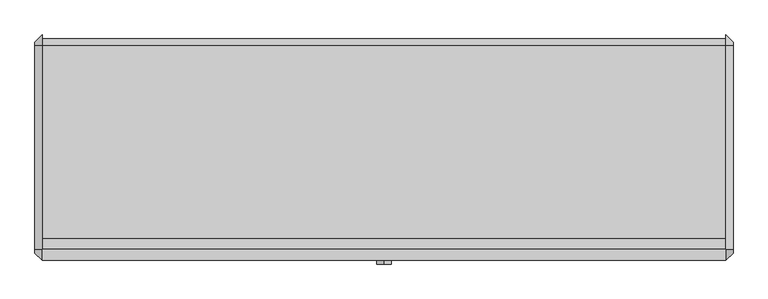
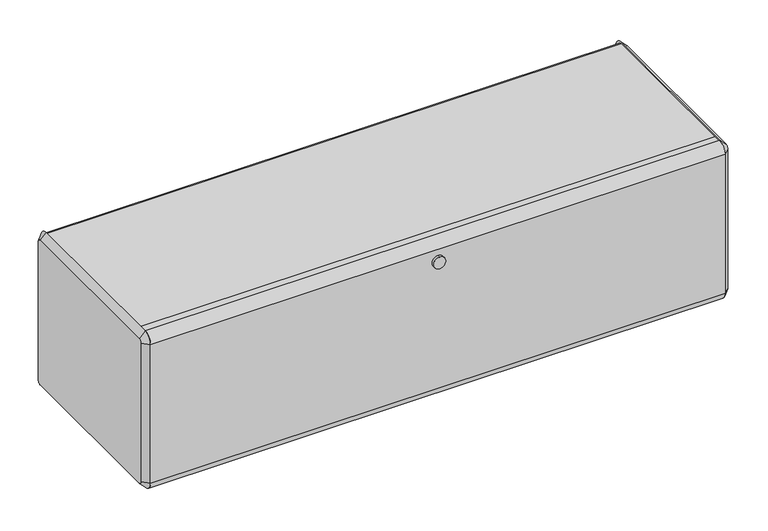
"""IFC4 building model written with IfcOpenShell, lengths in millimetres: furniture geometry."""

import ifcopenshell
import ifcopenshell.guid

model = None  # the IFC model being written
_history = None  # IfcOwnerHistory: only IFC2X3 demands one
_inside = {}  # id of a spatial element -> (the spatial element, [elements in it])
_under = {}  # id of a project, library or spatial element -> (it, [spatial elements below it])
_declared = {}  # id of a project -> (the project, [libraries it declares])
_typed = {}  # id of a type object -> (the type object, [elements of that type])
_made_of = {}  # id of a material, layer set ... -> (it, [elements and type objects made of it])


def new_model(schema):
    """Start an empty IFC model of exactly this schema.

    Asked for "IFC4X3", IfcOpenShell would pick the latest addendum, in which some entities
    have other attributes; the version numbers below select the first issue.
    IFC2X3 requires an IfcOwnerHistory on every rooted entity: one is made here for all.
    """
    global model, _history
    if schema == "IFC4X3":
        model = ifcopenshell.file(schema_version=(4, 3, 0, 0))
    else:
        model = ifcopenshell.file(schema=schema)
    _inside.clear()
    _under.clear()
    _declared.clear()
    _typed.clear()
    _made_of.clear()
    _history = None
    if model.schema == "IFC2X3":
        org = make("IfcOrganization", Name="unknown")
        user = make(
            "IfcPersonAndOrganization",
            ThePerson=make("IfcPerson", FamilyName="unknown"),
            TheOrganization=org,
        )
        app = make(
            "IfcApplication",
            ApplicationDeveloper=org,
            Version="unknown",
            ApplicationFullName="unknown",
            ApplicationIdentifier="unknown",
        )
        _history = make(
            "IfcOwnerHistory",
            OwningUser=user,
            OwningApplication=app,
            ChangeAction="ADDED",
            CreationDate=0,
        )
    return model


def make(cls, **values):
    """One entity of the class cls with the attributes given. An attribute that is None is left unset."""
    return model.create_entity(
        cls, **{name: value for name, value in values.items() if value is not None}
    )


def rooted(cls, **values):
    """An entity with a GlobalId (a new one), such as an element, a storey or a relation."""
    return make(cls, GlobalId=ifcopenshell.guid.new(), OwnerHistory=_history, **values)


def si_unit(unit_type, name, prefix=None):
    """IfcSIUnit, for example si_unit("LENGTHUNIT", "METRE", prefix="MILLI")."""
    return make("IfcSIUnit", UnitType=unit_type, Prefix=prefix, Name=name)


def assignment(units):
    """IfcUnitAssignment: the units of a project."""
    return None if units is None else make("IfcUnitAssignment", Units=units)


def point(xyz):
    """IfcCartesianPoint."""
    return None if xyz is None else make("IfcCartesianPoint", Coordinates=xyz)


def direction(xyz):
    """IfcDirection."""
    return None if xyz is None else make("IfcDirection", DirectionRatios=xyz)


def frame(location, z_axis=None, x_axis=None):
    """IfcAxis2Placement3D, a coordinate frame: its origin and axes. An axis left out is left unset."""
    return make(
        "IfcAxis2Placement3D",
        Location=point(location),
        Axis=direction(z_axis),
        RefDirection=direction(x_axis),
    )


def frame_2d(location, x_axis=None):
    """IfcAxis2Placement2D, a coordinate frame in the plane: its origin and x axis."""
    return make(
        "IfcAxis2Placement2D", Location=point(location), RefDirection=direction(x_axis)
    )


def origin():
    """The frame at (0, 0, 0) with its axes left unset."""
    return frame((0.0, 0.0, 0.0))


def place(relative_to, where):
    """IfcLocalPlacement: puts the frame where relative to a parent placement (None: the world)."""
    return make(
        "IfcLocalPlacement", PlacementRelTo=relative_to, RelativePlacement=where
    )


def context(
    kind, dimensions, precision=None, world=None, true_north=None, identifier=None
):
    """IfcGeometricRepresentationContext, for example the 3D "Model" context."""
    return make(
        "IfcGeometricRepresentationContext",
        ContextIdentifier=identifier,
        ContextType=kind,
        CoordinateSpaceDimension=dimensions,
        Precision=precision,
        WorldCoordinateSystem=world,
        TrueNorth=true_north,
    )


def project(units=None, contexts=None):
    """IfcProject with its units and contexts."""
    return rooted(
        "IfcProject",
        Name="project",
        RepresentationContexts=contexts,
        UnitsInContext=assignment(units),
    )


def spatial(cls, under=None, at=None, **own):
    """A site, building, storey or space (cls), placed at a placement, below another one or the project."""
    s = rooted(cls, ObjectPlacement=at, **own)
    if under is not None:
        _under.setdefault(under.id(), (under, []))[1].append(s)
    return s


def polyline(points):
    """IfcPolyline through the points."""
    return make("IfcPolyline", Points=[point(p) for p in points])


def circle_curve(where, radius):
    """IfcCircle in the frame where."""
    return make("IfcCircle", Position=where, Radius=radius)


def trimmed(basis, trim1, trim2, sense, master):
    """IfcTrimmedCurve: the piece of a basis curve between two trims."""
    return make(
        "IfcTrimmedCurve",
        BasisCurve=basis,
        Trim1=trim1,
        Trim2=trim2,
        SenseAgreement=sense,
        MasterRepresentation=master,
    )


def segment(curve, same_sense, transition):
    """IfcCompositeCurveSegment."""
    return make(
        "IfcCompositeCurveSegment",
        Transition=transition,
        SameSense=same_sense,
        ParentCurve=curve,
    )


def composite_curve(segments, self_intersect=None):
    """IfcCompositeCurve: segments joined end to end."""
    return make("IfcCompositeCurve", Segments=segments, SelfIntersect=self_intersect)


def outline(outer, holes=None, kind="AREA"):
    """IfcArbitraryClosedProfileDef: a profile drawn as a closed curve; with holes, ...WithVoids."""
    if holes is None:
        return make("IfcArbitraryClosedProfileDef", ProfileType=kind, OuterCurve=outer)
    return make(
        "IfcArbitraryProfileDefWithVoids",
        ProfileType=kind,
        OuterCurve=outer,
        InnerCurves=holes,
    )


def extrude(swept, where, along, depth):
    """IfcExtrudedAreaSolid: the profile swept, set in the frame where, extruded along a direction by depth."""
    return make(
        "IfcExtrudedAreaSolid",
        SweptArea=swept,
        Position=where,
        ExtrudedDirection=direction(along),
        Depth=depth,
    )


def shape(context_of_items, identifier, shape_type, items):
    """IfcShapeRepresentation: the items that make up one representation, for example the "Body"."""
    return make(
        "IfcShapeRepresentation",
        ContextOfItems=context_of_items,
        RepresentationIdentifier=identifier,
        RepresentationType=shape_type,
        Items=items,
    )


def source(mapping_origin, context_of_items, identifier, shape_type, items):
    """IfcRepresentationMap: a shape defined once, which mapped items show again and again."""
    return make(
        "IfcRepresentationMap",
        MappingOrigin=mapping_origin,
        MappedRepresentation=shape(context_of_items, identifier, shape_type, items),
    )


def transform(
    local_origin,
    x_axis=None,
    y_axis=None,
    z_axis=None,
    scale=None,
    scale2=None,
    scale3=None,
    uniform=True,
):
    """IfcCartesianTransformationOperator3D, or its non-uniform kind. x_axis, y_axis, z_axis: its Axis1, 2, 3."""
    if uniform:
        return make(
            "IfcCartesianTransformationOperator3D",
            Axis1=direction(x_axis),
            Axis2=direction(y_axis),
            LocalOrigin=point(local_origin),
            Scale=scale,
            Axis3=direction(z_axis),
        )
    return make(
        "IfcCartesianTransformationOperator3DnonUniform",
        Axis1=direction(x_axis),
        Axis2=direction(y_axis),
        LocalOrigin=point(local_origin),
        Scale=scale,
        Axis3=direction(z_axis),
        Scale2=scale2,
        Scale3=scale3,
    )


def mapped(mapping_source, mapping_target):
    """IfcMappedItem: shows the shape of a source again, moved by a transform."""
    return make(
        "IfcMappedItem", MappingSource=mapping_source, MappingTarget=mapping_target
    )


def made_of(thing, what):
    """Note that an element or type object is made of a material, layer set ...; save() writes the relation."""
    if what is not None:
        _made_of.setdefault(what.id(), (what, []))[1].append(thing)
    return thing


def element(
    cls,
    number,
    at=None,
    inside=None,
    cuts=None,
    type_object=None,
    material=None,
    context=None,
    identifier="Body",
    shape_type=None,
    held_by="IfcProductDefinitionShape",
    body=None,
    shapes=None,
    **own,
):
    """One element of the class cls, such as IfcWall. Its Tag is "e" and its number.

    at: its placement. inside: the storey or other place that contains it. cuts: it is an
    opening in that element (IfcRelVoidsElement). A single representation is given by context,
    identifier, shape_type and body (its items); several are given by shapes. held_by: the class
    of the entity that holds the representations. save() writes the other relations.
    """
    e = rooted(cls, Tag="e%d" % number, ObjectPlacement=at, **own)
    if body is not None:
        shapes = [shape(context, identifier, shape_type, body)]
    if shapes is not None:
        e.Representation = make(held_by, Representations=shapes)
    if inside is not None:
        _inside.setdefault(inside.id(), (inside, []))[1].append(e)
    if cuts is not None:
        rooted(
            "IfcRelVoidsElement", RelatingBuildingElement=cuts, RelatedOpeningElement=e
        )
    if type_object is not None:
        _typed.setdefault(type_object.id(), (type_object, []))[1].append(e)
    return made_of(e, material)


def aggregate(whole, parts):
    """IfcRelAggregates: a whole, such as a stair, and the parts it consists of."""
    return rooted("IfcRelAggregates", RelatingObject=whole, RelatedObjects=parts)


def save(model, path):
    """Write the relations noted so far, then the file.

    IfcRelAggregates (storeys below a building ...), IfcRelContainedInSpatialStructure (elements
    in a storey), IfcRelDefinesByType, IfcRelAssociatesMaterial and IfcRelDeclares: one each for
    every whole, place, type object, material and project.
    """
    for whole, parts in _under.values():
        aggregate(whole, parts)
    for where, things in _inside.values():
        rooted(
            "IfcRelContainedInSpatialStructure",
            RelatedElements=things,
            RelatingStructure=where,
        )
    for kind, things in _typed.values():
        rooted("IfcRelDefinesByType", RelatedObjects=things, RelatingType=kind)
    for what, things in _made_of.values():
        rooted("IfcRelAssociatesMaterial", RelatedObjects=things, RelatingMaterial=what)
    for by, libraries in _declared.values():
        rooted("IfcRelDeclares", RelatingContext=by, RelatedDefinitions=libraries)
    model.write(path)


def plane_surface(at):
    """IfcPlane: the flat surface through the origin of the frame at, square to its z axis."""
    return make("IfcPlane", Position=at)


def revolved_surface(curve, axis_point, axis_direction):
    """IfcSurfaceOfRevolution: the curve turned about the line through axis_point along axis_direction."""
    return make(
        "IfcSurfaceOfRevolution",
        SweptCurve=make("IfcArbitraryOpenProfileDef", ProfileType="CURVE", Curve=curve),
        AxisPosition=make("IfcAxis1Placement", Location=point(axis_point), Axis=direction(axis_direction)),
    )


def advanced_brep(points, edges, surfaces, faces):
    """IfcAdvancedBrep: a solid bounded by faces that lie on surfaces and meet in shared edges.

    An edge is (start, end): straight between two places in points (the first is 0);
    or (start, end, curve); or (start, end, curve, False) where it runs against its curve.
    A face is (place in surfaces, loops), or (place, loops, False) where it looks against
    its surface's normal. A loop lists edges by number (the first is 1), with a minus sign
    where the edge is run from its end to its start. The first loop is the outer one.
    """
    corners = [point(p) for p in points]
    vertices = [make("IfcVertexPoint", VertexGeometry=c) for c in corners]
    made = []
    for start, end, *more in edges:
        made.append(
            make(
                "IfcEdgeCurve",
                EdgeStart=vertices[start],
                EdgeEnd=vertices[end],
                EdgeGeometry=more[0] if more else make("IfcPolyline", Points=[corners[start], corners[end]]),
                SameSense=more[1] if len(more) > 1 else True,
            )
        )
    hull = []
    for where, loops, *sense in faces:
        bounds = []
        for j, loop in enumerate(loops):
            ring = [make("IfcOrientedEdge", EdgeElement=made[abs(k) - 1], Orientation=k > 0) for k in loop]
            bounds.append(
                make(
                    "IfcFaceOuterBound" if j == 0 else "IfcFaceBound",
                    Bound=make("IfcEdgeLoop", EdgeList=ring),
                    Orientation=True,
                )
            )
        hull.append(make("IfcAdvancedFace", Bounds=bounds, FaceSurface=surfaces[where], SameSense=sense[0] if sense else True))
    return make("IfcAdvancedBrep", Outer=make("IfcClosedShell", CfsFaces=hull))


def furniture_49ecb502(model_context):
    return source(origin(), model_context, "Body", "SolidModel", [
        extrude(outline(polyline([(596.9, -146.0499879), (596.9, -165.1), (-596.9, -165.1), (-596.9, -146.0499879), (596.9, -146.0499879)])), frame((0.0, 0.0, 892.85318), z_axis=(0.0, 0.0, 1.0), x_axis=(1.0, 0.0, 0.0)), (0.0, 0.0, 1.0), 9.525),
        extrude(outline(polyline([(596.9, 190.5), (596.9, -165.1), (-596.9, -165.1), (-596.9, 190.5), (596.9, 190.5)])), frame((0.0, 0.0, 562.65318), z_axis=(0.0, 0.0, 1.0), x_axis=(1.0, 0.0, 0.0)), (0.0, 0.0, 1.0), 3.175),
        extrude(outline(composite_curve([segment(polyline([(-165.1, 902.37818), (190.5, 902.37818)]), True, "CONTINUOUS"), segment(trimmed(circle_curve(frame_2d((187.8607088, 887.2492471)), 15.3574239), [point((190.5, 902.37818))], [point((203.2, 886.50318))], False, "CARTESIAN"), True, "CONTINUOUS"), segment(polyline([(203.2, 886.50318), (194.0307383, 886.50318)]), True, "CONTINUOUS"), segment(trimmed(circle_curve(frame_2d((189.6427331, 889.3714282)), 5.242274), [point((194.0307383, 886.50318))], [point((190.5, 894.543133))], True, "CARTESIAN"), True, "CONTINUOUS"), segment(polyline([(190.5, 894.543133), (-165.1, 894.543133), (-165.1, 902.37818)]), True, "CONTINUOUS")], self_intersect=False)), frame((-596.9, 0.0, 0.0), z_axis=(1.0, 0.0, 0.0), x_axis=(0.0, 1.0, 0.0)), (0.0, 0.0, 1.0), 1193.8),
        extrude(outline(composite_curve([segment(trimmed(circle_curve(frame_2d((-165.1, 886.50318)), 19.05), [point((-184.15, 886.50318))], [point((-165.1, 905.55318))], False, "CARTESIAN"), True, "CONTINUOUS"), segment(polyline([(-165.1, 905.55318), (-165.1, 892.85318)]), True, "CONTINUOUS"), segment(trimmed(circle_curve(frame_2d((-165.1, 886.50318)), 6.35), [point((-165.1, 892.85318))], [point((-171.45, 886.50318))], True, "CARTESIAN"), True, "CONTINUOUS"), segment(polyline([(-171.45, 886.50318), (-171.45, 581.70318)]), True, "CONTINUOUS"), segment(trimmed(circle_curve(frame_2d((-165.1, 581.70318)), 6.35), [point((-171.45, 581.70318))], [point((-165.1, 575.35318))], True, "CARTESIAN"), True, "CONTINUOUS"), segment(polyline([(-165.1, 575.35318), (-165.1, 562.65318)]), True, "CONTINUOUS"), segment(trimmed(circle_curve(frame_2d((-165.1, 581.70318)), 19.05), [point((-165.1, 562.65318))], [point((-184.15, 581.70318))], False, "CARTESIAN"), True, "CONTINUOUS"), segment(polyline([(-184.15, 581.70318), (-184.15, 886.50318)]), True, "CONTINUOUS")], self_intersect=False)), frame((-596.9, 0.0, 0.0), z_axis=(1.0, 0.0, 0.0), x_axis=(0.0, 1.0, 0.0)), (0.0, 0.0, 1.0), 1193.8),
        extrude(outline(composite_curve([segment(trimmed(circle_curve(frame_2d((861.0534624, 0.0)), 12.713771), [point((848.3396914, 0.0))], [point((873.7672335, 0.0))], False, "CARTESIAN"), True, "CONTINUOUS"), segment(trimmed(circle_curve(frame_2d((861.0534624, 0.0)), 12.713771), [point((873.7672335, 0.0))], [point((848.3396914, 0.0))], False, "CARTESIAN"), True, "CONTINUOUS")], self_intersect=False)), frame((0.0, -190.5, 0.0), z_axis=(0.0, 1.0, 0.0), x_axis=(0.0, 0.0, 1.0)), (0.0, 0.0, 1.0), 6.35),
        advanced_brep(
        [(609.6, 190.5, 892.85318), (609.6, -165.1, 892.85318), (609.6, -171.45, 886.50318), (609.6, -171.45, 581.70318), (609.6, -165.1, 575.35318), (609.6, 190.5, 575.35318), (609.6, 196.85, 581.70318), (609.6, 196.85, 886.50318), (596.9, 190.5, 905.55318), (596.9, 209.55, 886.50318), (596.9, 209.55, 581.70318), (596.9, 190.5, 562.65318), (596.9, -165.1, 562.65318), (596.9, -184.15, 581.70318), (596.9, -184.15, 886.50318), (596.9, -165.1, 905.55318)],
        [
            (0, 1),
            (1, 2, circle_curve(frame((609.6, -165.1, 886.50318), z_axis=(1.0, 1.169730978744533e-12, -1.268318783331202e-12), x_axis=(1.2683206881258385e-12, 0.0, 1.0)), 6.35)),
            (2, 3),
            (3, 4, circle_curve(frame((609.6, -165.1, 581.70318), z_axis=(1.0, -2.7311486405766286e-12, -2.739142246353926e-12), x_axis=(-2.7311758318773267e-12, -1.0, 0.0)), 6.35)),
            (4, 5),
            (5, 6, circle_curve(frame((609.6, 190.5, 581.70318), z_axis=(1.0, -3.485212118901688e-12, 3.4745539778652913e-12), x_axis=(3.4746146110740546e-12, 0.0, -1.0)), 6.35)),
            (6, 7),
            (7, 0, circle_curve(frame((609.6, 190.5, 886.50318), z_axis=(1.0, 1.169730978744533e-12, 1.055155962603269e-12), x_axis=(-1.1697188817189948e-12, 1.0, 0.0)), 6.35)),
            (8, 9, circle_curve(frame((596.9, 190.5, 886.50318), z_axis=(-1.0, -1.169730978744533e-12, -1.055155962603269e-12), x_axis=(-1.1697188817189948e-12, 1.0, 0.0)), 19.05)),
            (9, 10),
            (10, 11, circle_curve(frame((596.9, 190.5, 581.70318), z_axis=(-1.0, 3.485212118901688e-12, -3.4745539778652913e-12), x_axis=(3.4746146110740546e-12, 0.0, -1.0)), 19.05)),
            (11, 12),
            (12, 13, circle_curve(frame((596.9, -165.1, 581.70318), z_axis=(-1.0, 2.7311486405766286e-12, 2.739142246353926e-12), x_axis=(-2.7311758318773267e-12, -1.0, 0.0)), 19.05)),
            (13, 14),
            (14, 15, circle_curve(frame((596.9, -165.1, 886.50318), z_axis=(-1.0, -1.169730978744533e-12, 1.268318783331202e-12), x_axis=(1.2683206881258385e-12, 0.0, 1.0)), 19.05)),
            (15, 8),
            (15, 1),
            (0, 8),
            (14, 2),
            (13, 3),
            (12, 4),
            (11, 5),
            (10, 6),
            (9, 7),
        ],
        [
            plane_surface(frame((609.6, 12.7, 734.10318), z_axis=(1.0, 0.0, 0.0), x_axis=(0.0, -1.0, 0.0))),
            plane_surface(frame((596.9, 12.7, 734.10318), z_axis=(-1.0, 0.0, 0.0), x_axis=(0.0, -1.0, 0.0))),
            plane_surface(frame((596.9, 12.7, 905.55318), z_axis=(0.707106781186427, 0.0, 0.7071067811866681), x_axis=(0.0, -1.0, 0.0))),
            revolved_surface(polyline([(609.6000000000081, -165.1, 892.853179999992), (596.9, -165.1, 905.55318)]), (615.95, -165.1, 886.50318), (-1.0, -1.169730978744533e-12, 1.268318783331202e-12)),
            plane_surface(frame((596.9, -184.15, 734.10318), z_axis=(0.7071067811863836, -0.7071067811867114, 0.0), x_axis=(0.0, 0.0, -1.0))),
            revolved_surface(polyline([(609.6, -171.44999999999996, 581.70318), (596.8999999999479, -184.15000000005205, 581.70318)]), (615.95, -165.1, 581.70318), (-1.0, 2.7311486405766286e-12, 2.739142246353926e-12)),
            plane_surface(frame((596.9, 12.7, 562.65318), z_axis=(0.7071067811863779, 0.0, -0.7071067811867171), x_axis=(0.0, 1.0, 0.0))),
            revolved_surface(polyline([(609.6000000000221, 190.5, 575.353180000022), (596.8999999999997, 190.5, 562.6531799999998)]), (615.95, 190.5, 581.70318), (-1.0, 3.485212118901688e-12, -3.4745539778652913e-12)),
            plane_surface(frame((596.9, 209.55, 734.10318), z_axis=(0.7071067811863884, 0.7071067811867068, 0.0), x_axis=(0.0, 0.0, 1.0))),
            revolved_surface(polyline([(609.6, 196.85, 886.50318), (596.8999999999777, 209.5500000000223, 886.50318)]), (615.95, 190.5, 886.50318), (-1.0, -1.169730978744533e-12, -1.055155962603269e-12)),
        ],
        [
            (0, [[1, 2, 3, 4, 5, 6, 7, 8]]),
            (1, [[9, 10, 11, 12, 13, 14, 15, 16]]),
            (2, [[-16, 17, -1, 18]]),
            (3, [[-15, 19, -2, -17]]),
            (4, [[-14, 20, -3, -19]]),
            (5, [[-13, 21, -4, -20]]),
            (6, [[-12, 22, -5, -21]]),
            (7, [[-11, 23, -6, -22]]),
            (8, [[-10, 24, -7, -23]]),
            (9, [[-9, -18, -8, -24]]),
        ],
    ),
        advanced_brep(
        [(-609.6, -165.1, 892.85318), (-609.6, 190.5, 892.85318), (-609.6, 196.85, 886.50318), (-609.6, 196.85, 581.70318), (-609.6, 190.5, 575.35318), (-609.6, -165.1, 575.35318), (-609.6, -171.45, 581.70318), (-609.6, -171.45, 886.50318), (-596.9, -165.1, 905.55318), (-596.9, -184.15, 886.50318), (-596.9, -184.15, 581.70318), (-596.9, -165.1, 562.65318), (-596.9, 190.5, 562.65318), (-596.9, 209.55, 581.70318), (-596.9, 209.55, 886.50318), (-596.9, 190.5, 905.55318)],
        [
            (0, 1),
            (1, 2, circle_curve(frame((-609.6, 190.5, 886.50318), z_axis=(-1.0, -1.945110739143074e-12, -1.8651746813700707e-12), x_axis=(-1.8651128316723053e-12, 0.0, 1.0)), 6.35)),
            (2, 3),
            (3, 4, circle_curve(frame((-609.6, 190.5, 581.70318), z_axis=(-1.0, 0.0, 0.0), x_axis=(0.0, 1.0, 0.0)), 6.35)),
            (4, 5),
            (5, 6, circle_curve(frame((-609.6, -165.1, 581.70318), z_axis=(-1.0, 0.0, 0.0), x_axis=(0.0, 0.0, -1.0)), 6.35)),
            (6, 7),
            (7, 0, circle_curve(frame((-609.6, -165.1, 886.50318), z_axis=(-1.0, -1.942446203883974e-12, 2.0357049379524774e-12), x_axis=(1.9425183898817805e-12, -1.0, 0.0)), 6.35)),
            (8, 9, circle_curve(frame((-596.9, -165.1, 886.50318), z_axis=(1.0, 1.942446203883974e-12, -2.0357049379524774e-12), x_axis=(1.9425183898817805e-12, -1.0, 0.0)), 19.05)),
            (9, 10),
            (10, 11, circle_curve(frame((-596.9, -165.1, 581.70318), z_axis=(1.0, 0.0, 0.0), x_axis=(0.0, 0.0, -1.0)), 19.05)),
            (11, 12),
            (12, 13, circle_curve(frame((-596.9, 190.5, 581.70318), z_axis=(1.0, 0.0, 0.0), x_axis=(0.0, 1.0, 0.0)), 19.05)),
            (13, 14),
            (14, 15, circle_curve(frame((-596.9, 190.5, 886.50318), z_axis=(1.0, 1.945110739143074e-12, 1.8651746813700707e-12), x_axis=(-1.8651128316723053e-12, 0.0, 1.0)), 19.05)),
            (15, 8),
            (15, 1),
            (0, 8),
            (14, 2),
            (13, 3),
            (12, 4),
            (11, 5),
            (10, 6),
            (9, 7),
        ],
        [
            plane_surface(frame((-609.6, 12.7, 734.10318), z_axis=(-1.0, 0.0, 0.0), x_axis=(0.0, -1.0, 0.0))),
            plane_surface(frame((-596.9, 12.7, 734.10318), z_axis=(1.0, 0.0, 0.0), x_axis=(0.0, -1.0, 0.0))),
            plane_surface(frame((-596.9, 12.7, 905.55318), z_axis=(-0.7071067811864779, 0.0, 0.7071067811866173), x_axis=(0.0, 1.0, 0.0))),
            revolved_surface(polyline([(-609.6000000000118, 190.5, 892.8531799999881), (-596.8999999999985, 190.5, 905.5531800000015)]), (-615.95, 190.5, 886.50318), (1.0, 1.945110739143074e-12, 1.8651746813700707e-12)),
            plane_surface(frame((-596.9, 209.55, 734.10318), z_axis=(-0.7071067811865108, 0.7071067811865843, 0.0), x_axis=(0.0, 0.0, -1.0))),
            revolved_surface(polyline([(-609.6, 196.85, 581.70318), (-596.9, 209.55, 581.70318)]), (-615.95, 190.5, 581.70318), (1.0, 0.0, 0.0)),
            plane_surface(frame((-596.9, 12.7, 562.65318), z_axis=(-0.7071067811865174, 0.0, -0.7071067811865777), x_axis=(0.0, -1.0, 0.0))),
            revolved_surface(polyline([(-609.6, -165.1, 575.35318), (-596.9, -165.1, 562.65318)]), (-615.95, -165.1, 581.70318), (1.0, 0.0, 0.0)),
            plane_surface(frame((-596.9, -184.15, 734.10318), z_axis=(-0.7071067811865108, -0.7071067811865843, 0.0), x_axis=(0.0, 0.0, 1.0))),
            revolved_surface(polyline([(-609.6000000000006, -171.44999999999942, 886.50318), (-596.899999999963, -184.150000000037, 886.50318)]), (-615.95, -165.1, 886.50318), (1.0, 1.942446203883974e-12, -2.0357049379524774e-12)),
        ],
        [
            (0, [[1, 2, 3, 4, 5, 6, 7, 8]]),
            (1, [[9, 10, 11, 12, 13, 14, 15, 16]]),
            (2, [[-16, 17, -1, 18]]),
            (3, [[-15, 19, -2, -17]]),
            (4, [[-14, 20, -3, -19]]),
            (5, [[-13, 21, -4, -20]]),
            (6, [[-12, 22, -5, -21]]),
            (7, [[-11, 23, -6, -22]]),
            (8, [[-10, 24, -7, -23]]),
            (9, [[-9, -18, -8, -24]]),
        ],
    ),
    ])


if __name__ == "__main__":
    model = new_model("IFC4")
    model_context = context("Model", 3, world=origin())
    ifc_project = project(units=[si_unit("LENGTHUNIT", "METRE", prefix="MILLI")], contexts=[model_context])
    site = spatial("IfcSite", under=ifc_project)
    building = spatial("IfcBuilding", under=site)
    placement = place(None, origin())
    furniture_shape = furniture_49ecb502(model_context)
    element("IfcFurniture", 1, ObjectType="HermanMiller_ActionOffice_A3121_B-StyleSuspendedLateralFile : 16\"D x 48\"W", at=placement, inside=building, context=model_context, shape_type="MappedRepresentation", body=[
        mapped(furniture_shape, transform((0.0, 0.0, 0.0), x_axis=(1.0, 0.0, 0.0), y_axis=(0.0, 1.0, 0.0), z_axis=(0.0, 0.0, 1.0))),
    ])
    save(model, "model.ifc")
